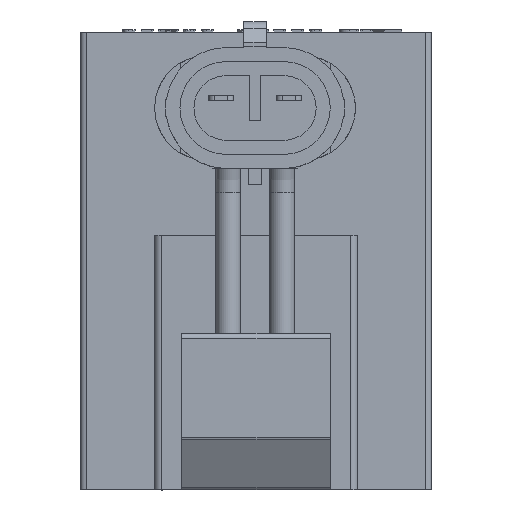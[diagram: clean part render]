
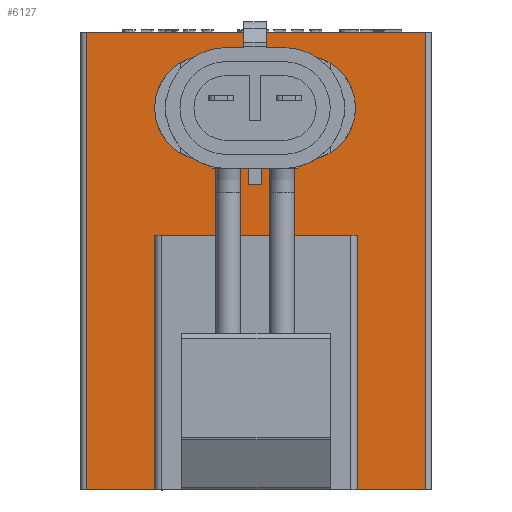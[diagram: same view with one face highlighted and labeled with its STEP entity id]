
A CAD part, front view. The second image highlights one B-rep face of the part: STEP entity #6127.
In plain terms, the highlighted planar face has unit normal (0, -1, 0).
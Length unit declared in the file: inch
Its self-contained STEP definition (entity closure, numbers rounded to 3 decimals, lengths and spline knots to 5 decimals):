
#5930=CARTESIAN_POINT('',(-0.44964,-1.055,1.249));
#5931=VERTEX_POINT('',#5930);
#5938=CARTESIAN_POINT('',(-0.44964,-1.055,0.119));
#5939=VERTEX_POINT('',#5938);
#5940=CARTESIAN_POINT('',(-0.44964,-1.055,0.119));
#5941=DIRECTION('',(0.0,0.0,1.0));
#5942=VECTOR('',#5941,1.13);
#5943=LINE('',#5940,#5942);
#5944=EDGE_CURVE('',#5939,#5931,#5943,.T.);
#5961=CARTESIAN_POINT('',(0.44964,-1.055,1.249));
#5962=VERTEX_POINT('',#5961);
#5970=CARTESIAN_POINT('',(0.44964,-1.055,0.119));
#5971=VERTEX_POINT('',#5970);
#5978=CARTESIAN_POINT('',(0.44964,-1.055,1.249));
#5979=DIRECTION('',(0.0,0.0,-1.0));
#5980=VECTOR('',#5979,1.13);
#5981=LINE('',#5978,#5980);
#5982=EDGE_CURVE('',#5962,#5971,#5981,.T.);
#5994=CARTESIAN_POINT('',(-0.44964,-1.055,1.249));
#5995=DIRECTION('',(1.0,0.0,0.0));
#5996=VECTOR('',#5995,0.89928);
#5997=LINE('',#5994,#5996);
#5998=EDGE_CURVE('',#5931,#5962,#5997,.T.);
#6079=CARTESIAN_POINT('',(-0.74998,-1.055,2.149));
#6080=DIRECTION('',(0.0,-1.0,0.0));
#6081=DIRECTION('',(0.0,0.0,1.0));
#6082=AXIS2_PLACEMENT_3D('',#6079,#6080,#6081);
#6083=PLANE('',#6082);
#6084=ORIENTED_EDGE('',*,*,#5982,.T.);
#6085=CARTESIAN_POINT('',(0.74998,-1.055,0.119));
#6086=VERTEX_POINT('',#6085);
#6087=CARTESIAN_POINT('',(0.44964,-1.055,0.119));
#6088=DIRECTION('',(1.0,0.0,0.0));
#6089=VECTOR('',#6088,0.30034);
#6090=LINE('',#6087,#6089);
#6091=EDGE_CURVE('',#5971,#6086,#6090,.T.);
#6092=ORIENTED_EDGE('',*,*,#6091,.T.);
#6093=CARTESIAN_POINT('',(0.74998,-1.055,2.149));
#6094=VERTEX_POINT('',#6093);
#6095=CARTESIAN_POINT('',(0.74998,-1.055,2.149));
#6096=DIRECTION('',(0.0,0.0,-1.0));
#6097=VECTOR('',#6096,2.03);
#6098=LINE('',#6095,#6097);
#6099=EDGE_CURVE('',#6094,#6086,#6098,.T.);
#6100=ORIENTED_EDGE('',*,*,#6099,.F.);
#6101=CARTESIAN_POINT('',(-0.74998,-1.055,2.149));
#6102=VERTEX_POINT('',#6101);
#6103=CARTESIAN_POINT('',(0.74998,-1.055,2.149));
#6104=DIRECTION('',(-1.0,0.0,0.0));
#6105=VECTOR('',#6104,1.49996);
#6106=LINE('',#6103,#6105);
#6107=EDGE_CURVE('',#6094,#6102,#6106,.T.);
#6108=ORIENTED_EDGE('',*,*,#6107,.T.);
#6109=CARTESIAN_POINT('',(-0.74998,-1.055,0.119));
#6110=VERTEX_POINT('',#6109);
#6111=CARTESIAN_POINT('',(-0.74998,-1.055,2.149));
#6112=DIRECTION('',(0.0,0.0,-1.0));
#6113=VECTOR('',#6112,2.03);
#6114=LINE('',#6111,#6113);
#6115=EDGE_CURVE('',#6102,#6110,#6114,.T.);
#6116=ORIENTED_EDGE('',*,*,#6115,.T.);
#6117=CARTESIAN_POINT('',(-0.74998,-1.055,0.119));
#6118=DIRECTION('',(1.0,0.0,0.0));
#6119=VECTOR('',#6118,0.30034);
#6120=LINE('',#6117,#6119);
#6121=EDGE_CURVE('',#6110,#5939,#6120,.T.);
#6122=ORIENTED_EDGE('',*,*,#6121,.T.);
#6123=ORIENTED_EDGE('',*,*,#5944,.T.);
#6124=ORIENTED_EDGE('',*,*,#5998,.T.);
#6125=EDGE_LOOP('',(#6084,#6092,#6100,#6108,#6116,#6122,#6123,#6124));
#6126=FACE_OUTER_BOUND('',#6125,.T.);
#6127=ADVANCED_FACE('',(#6126),#6083,.T.);
